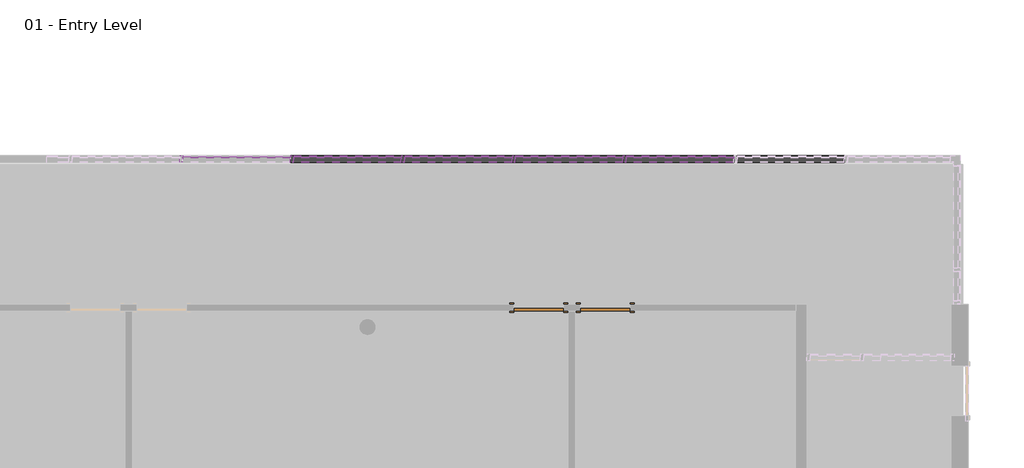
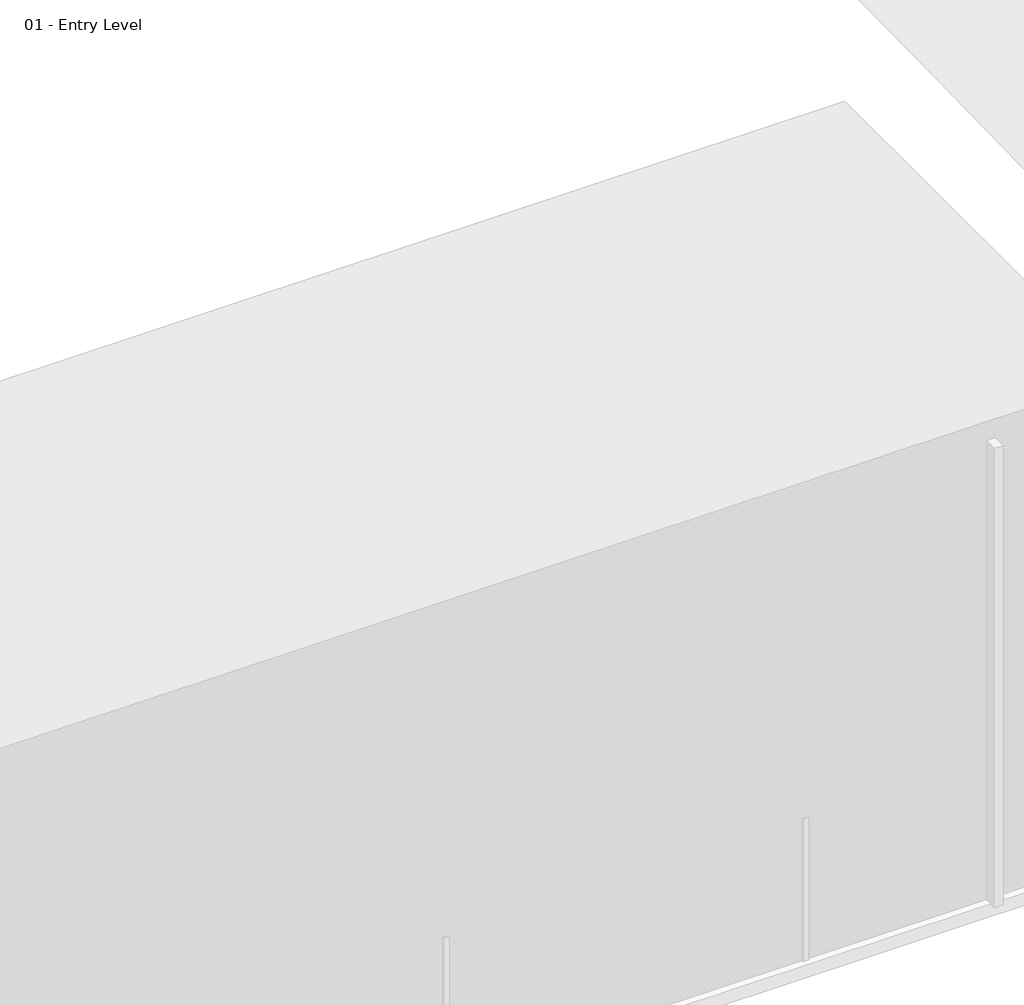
# One storey, part 21 of 34: 84 members, 45 plates, 2 doors.
"""IFC4 building model written with IfcOpenShell, lengths in millimetres."""

from ifc_helpers import new_model, si_unit, origin, place, context, project, spatial, transform, mapped, element, save
from components import door_a1797ceb, door_a3eb833a, member_2b49869a, member_391b434c, member_9e90ae50, system_panel_glazed_1b9d6098, system_panel_glazed_70da479d

model = new_model("IFC4")

# Units and contexts
model_context = context("Model", 3, world=origin())
ifc_project = project(units=[si_unit("LENGTHUNIT", "METRE", prefix="MILLI")], contexts=[model_context])

# Site, building, storey
site = spatial("IfcSite", under=ifc_project)
building = spatial("IfcBuilding", under=site)
storey = spatial("IfcBuildingStorey", under=building, Name="01 - Entry Level", Elevation=0.0)

# Doors
placement = place(None, origin())
door_shape = door_a1797ceb(model_context)
element("IfcDoor", 1, ObjectType="Single-Flush : 36\" x 84\"", at=placement, inside=storey, context=model_context, shape_type="MappedRepresentation", body=[
    mapped(door_shape, transform((59652.8207476, 8270.8, 0.0), x_axis=(-1.0, 0.0, 0.0), y_axis=(0.0, -1.0, 0.0), z_axis=(0.0, 0.0, 1.0))),
])
door_2_shape = door_a3eb833a(model_context)
element("IfcDoor", 2, ObjectType="Single-Flush : 36\" x 84\"", at=placement, inside=storey, context=model_context, shape_type="MappedRepresentation", body=[
    mapped(door_2_shape, transform((58433.6207476, 8270.8, 0.0), x_axis=(1.0, 0.0, 0.0), y_axis=(0.0, 1.0, 0.0), z_axis=(0.0, 0.0, 1.0))),
])

# Members
member_shape = member_2b49869a(model_context)
element("IfcMember", 3, ObjectType="Rectangular Mullion : 2.5\" x 5\" rectangular", at=placement, inside=storey, context=model_context, shape_type="MappedRepresentation", body=[
    mapped(member_shape, transform((60008.4207476, 11001.3, 9753.6), x_axis=(-1.0, 0.0, 0.0), y_axis=(0.0, 1.0, 0.0), z_axis=(0.0, 0.0, -1.0))),
])
element("IfcMember", 4, ObjectType="Rectangular Mullion : 2.5\" x 5\" rectangular", at=placement, inside=storey, context=model_context, shape_type="MappedRepresentation", body=[
    mapped(member_shape, transform((57976.4207476, 11001.3, 9753.6), x_axis=(-1.0, 0.0, 0.0), y_axis=(0.0, 1.0, 0.0), z_axis=(0.0, 0.0, -1.0))),
])
element("IfcMember", 5, ObjectType="Rectangular Mullion : 2.5\" x 5\" rectangular", at=placement, inside=storey, context=model_context, shape_type="MappedRepresentation", body=[
    mapped(member_shape, transform((55944.4207476, 11001.3, 9753.6), x_axis=(-1.0, 0.0, 0.0), y_axis=(0.0, 1.0, 0.0), z_axis=(0.0, 0.0, -1.0))),
])
element("IfcMember", 6, ObjectType="Rectangular Mullion : 2.5\" x 5\" rectangular", at=placement, inside=storey, context=model_context, shape_type="MappedRepresentation", body=[
    mapped(member_shape, transform((53912.4207476, 11001.3, 9753.6), x_axis=(-1.0, 0.0, 0.0), y_axis=(0.0, 1.0, 0.0), z_axis=(0.0, 0.0, -1.0))),
])
element("IfcMember", 7, ObjectType="Rectangular Mullion : 2.5\" x 5\" rectangular", at=placement, inside=storey, context=model_context, shape_type="MappedRepresentation", body=[
    mapped(member_shape, transform((51880.4207476, 11001.3, 9753.6), x_axis=(-1.0, 0.0, 0.0), y_axis=(0.0, 1.0, 0.0), z_axis=(0.0, 0.0, -1.0))),
])
member_2_shape = member_391b434c(model_context)
element("IfcMember", 8, ObjectType="Rectangular Mullion : 2.5\" x 5\" rectangular", at=placement, inside=storey, context=model_context, shape_type="MappedRepresentation", body=[
    mapped(member_2_shape, transform((62072.1707476, 11001.3, 10972.8), x_axis=(0.0, 0.0, 1.0), y_axis=(0.0, 1.0, 0.0), z_axis=(-1.0, 0.0, 0.0))),
])
element("IfcMember", 9, ObjectType="Rectangular Mullion : 2.5\" x 5\" rectangular", at=placement, inside=storey, context=model_context, shape_type="MappedRepresentation", body=[
    mapped(member_2_shape, transform((60040.1707476, 11001.3, 10972.8), x_axis=(0.0, 0.0, 1.0), y_axis=(0.0, 1.0, 0.0), z_axis=(-1.0, 0.0, 0.0))),
])
element("IfcMember", 10, ObjectType="Rectangular Mullion : 2.5\" x 5\" rectangular", at=placement, inside=storey, context=model_context, shape_type="MappedRepresentation", body=[
    mapped(member_2_shape, transform((58008.1707476, 11001.3, 10972.8), x_axis=(0.0, 0.0, 1.0), y_axis=(0.0, 1.0, 0.0), z_axis=(-1.0, 0.0, 0.0))),
])
element("IfcMember", 11, ObjectType="Rectangular Mullion : 2.5\" x 5\" rectangular", at=placement, inside=storey, context=model_context, shape_type="MappedRepresentation", body=[
    mapped(member_2_shape, transform((55976.1707476, 11001.3, 10972.8), x_axis=(0.0, 0.0, 1.0), y_axis=(0.0, 1.0, 0.0), z_axis=(-1.0, 0.0, 0.0))),
])
element("IfcMember", 12, ObjectType="Rectangular Mullion : 2.5\" x 5\" rectangular", at=placement, inside=storey, context=model_context, shape_type="MappedRepresentation", body=[
    mapped(member_2_shape, transform((53944.1707476, 11001.3, 10972.8), x_axis=(0.0, 0.0, 1.0), y_axis=(0.0, 1.0, 0.0), z_axis=(-1.0, 0.0, 0.0))),
])
element("IfcMember", 13, ObjectType="Rectangular Mullion : 2.5\" x 5\" rectangular", at=placement, inside=storey, context=model_context, shape_type="MappedRepresentation", body=[
    mapped(member_2_shape, transform((62008.6707476, 11001.3, 0.0), x_axis=(0.0, 0.0, -1.0), y_axis=(0.0, 1.0, 0.0), z_axis=(1.0, 0.0, 0.0))),
])
element("IfcMember", 14, ObjectType="Rectangular Mullion : 2.5\" x 5\" rectangular", at=placement, inside=storey, context=model_context, shape_type="MappedRepresentation", body=[
    mapped(member_2_shape, transform((59976.6707476, 11001.3, 0.0), x_axis=(0.0, 0.0, -1.0), y_axis=(0.0, 1.0, 0.0), z_axis=(1.0, 0.0, 0.0))),
])
element("IfcMember", 15, ObjectType="Rectangular Mullion : 2.5\" x 5\" rectangular", at=placement, inside=storey, context=model_context, shape_type="MappedRepresentation", body=[
    mapped(member_2_shape, transform((57944.6707476, 11001.3, 0.0), x_axis=(0.0, 0.0, -1.0), y_axis=(0.0, 1.0, 0.0), z_axis=(1.0, 0.0, 0.0))),
])
element("IfcMember", 16, ObjectType="Rectangular Mullion : 2.5\" x 5\" rectangular", at=placement, inside=storey, context=model_context, shape_type="MappedRepresentation", body=[
    mapped(member_2_shape, transform((55912.6707476, 11001.3, 0.0), x_axis=(0.0, 0.0, -1.0), y_axis=(0.0, 1.0, 0.0), z_axis=(1.0, 0.0, 0.0))),
])
element("IfcMember", 17, ObjectType="Rectangular Mullion : 2.5\" x 5\" rectangular", at=placement, inside=storey, context=model_context, shape_type="MappedRepresentation", body=[
    mapped(member_2_shape, transform((53880.6707476, 11001.3, 0.0), x_axis=(0.0, 0.0, -1.0), y_axis=(0.0, 1.0, 0.0), z_axis=(1.0, 0.0, 0.0))),
])
member_3_shape = member_9e90ae50(model_context)
element("IfcMember", 18, ObjectType="Rectangular Mullion : 2.5\" x 5\" rectangular", at=placement, inside=storey, context=model_context, shape_type="MappedRepresentation", body=[
    mapped(member_3_shape, transform((62072.1707476, 11001.3, 1219.2), x_axis=(0.0, 0.0, 1.0), y_axis=(0.0, 1.0, 0.0), z_axis=(-1.0, 0.0, 0.0))),
])
element("IfcMember", 19, ObjectType="Rectangular Mullion : 2.5\" x 5\" rectangular", at=placement, inside=storey, context=model_context, shape_type="MappedRepresentation", body=[
    mapped(member_3_shape, transform((60040.1707476, 11001.3, 1219.2), x_axis=(0.0, 0.0, 1.0), y_axis=(0.0, 1.0, 0.0), z_axis=(-1.0, 0.0, 0.0))),
])
element("IfcMember", 20, ObjectType="Rectangular Mullion : 2.5\" x 5\" rectangular", at=placement, inside=storey, context=model_context, shape_type="MappedRepresentation", body=[
    mapped(member_3_shape, transform((58008.1707476, 11001.3, 1219.2), x_axis=(0.0, 0.0, 1.0), y_axis=(0.0, 1.0, 0.0), z_axis=(-1.0, 0.0, 0.0))),
])
element("IfcMember", 21, ObjectType="Rectangular Mullion : 2.5\" x 5\" rectangular", at=placement, inside=storey, context=model_context, shape_type="MappedRepresentation", body=[
    mapped(member_3_shape, transform((55976.1707476, 11001.3, 1219.2), x_axis=(0.0, 0.0, 1.0), y_axis=(0.0, 1.0, 0.0), z_axis=(-1.0, 0.0, 0.0))),
])
element("IfcMember", 22, ObjectType="Rectangular Mullion : 2.5\" x 5\" rectangular", at=placement, inside=storey, context=model_context, shape_type="MappedRepresentation", body=[
    mapped(member_3_shape, transform((53944.1707476, 11001.3, 1219.2), x_axis=(0.0, 0.0, 1.0), y_axis=(0.0, 1.0, 0.0), z_axis=(-1.0, 0.0, 0.0))),
])
element("IfcMember", 23, ObjectType="Rectangular Mullion : 2.5\" x 5\" rectangular", at=placement, inside=storey, context=model_context, shape_type="MappedRepresentation", body=[
    mapped(member_3_shape, transform((62072.1707476, 11001.3, 2438.4), x_axis=(0.0, 0.0, 1.0), y_axis=(0.0, 1.0, 0.0), z_axis=(-1.0, 0.0, 0.0))),
])
element("IfcMember", 24, ObjectType="Rectangular Mullion : 2.5\" x 5\" rectangular", at=placement, inside=storey, context=model_context, shape_type="MappedRepresentation", body=[
    mapped(member_3_shape, transform((60040.1707476, 11001.3, 2438.4), x_axis=(0.0, 0.0, 1.0), y_axis=(0.0, 1.0, 0.0), z_axis=(-1.0, 0.0, 0.0))),
])
element("IfcMember", 25, ObjectType="Rectangular Mullion : 2.5\" x 5\" rectangular", at=placement, inside=storey, context=model_context, shape_type="MappedRepresentation", body=[
    mapped(member_3_shape, transform((58008.1707476, 11001.3, 2438.4), x_axis=(0.0, 0.0, 1.0), y_axis=(0.0, 1.0, 0.0), z_axis=(-1.0, 0.0, 0.0))),
])
element("IfcMember", 26, ObjectType="Rectangular Mullion : 2.5\" x 5\" rectangular", at=placement, inside=storey, context=model_context, shape_type="MappedRepresentation", body=[
    mapped(member_3_shape, transform((55976.1707476, 11001.3, 2438.4), x_axis=(0.0, 0.0, 1.0), y_axis=(0.0, 1.0, 0.0), z_axis=(-1.0, 0.0, 0.0))),
])
element("IfcMember", 27, ObjectType="Rectangular Mullion : 2.5\" x 5\" rectangular", at=placement, inside=storey, context=model_context, shape_type="MappedRepresentation", body=[
    mapped(member_3_shape, transform((53944.1707476, 11001.3, 2438.4), x_axis=(0.0, 0.0, 1.0), y_axis=(0.0, 1.0, 0.0), z_axis=(-1.0, 0.0, 0.0))),
])
element("IfcMember", 28, ObjectType="Rectangular Mullion : 2.5\" x 5\" rectangular", at=placement, inside=storey, context=model_context, shape_type="MappedRepresentation", body=[
    mapped(member_3_shape, transform((62072.1707476, 11001.3, 3657.6), x_axis=(0.0, 0.0, 1.0), y_axis=(0.0, 1.0, 0.0), z_axis=(-1.0, 0.0, 0.0))),
])
element("IfcMember", 29, ObjectType="Rectangular Mullion : 2.5\" x 5\" rectangular", at=placement, inside=storey, context=model_context, shape_type="MappedRepresentation", body=[
    mapped(member_3_shape, transform((60040.1707476, 11001.3, 3657.6), x_axis=(0.0, 0.0, 1.0), y_axis=(0.0, 1.0, 0.0), z_axis=(-1.0, 0.0, 0.0))),
])
element("IfcMember", 30, ObjectType="Rectangular Mullion : 2.5\" x 5\" rectangular", at=placement, inside=storey, context=model_context, shape_type="MappedRepresentation", body=[
    mapped(member_3_shape, transform((58008.1707476, 11001.3, 3657.6), x_axis=(0.0, 0.0, 1.0), y_axis=(0.0, 1.0, 0.0), z_axis=(-1.0, 0.0, 0.0))),
])
element("IfcMember", 31, ObjectType="Rectangular Mullion : 2.5\" x 5\" rectangular", at=placement, inside=storey, context=model_context, shape_type="MappedRepresentation", body=[
    mapped(member_3_shape, transform((55976.1707476, 11001.3, 3657.6), x_axis=(0.0, 0.0, 1.0), y_axis=(0.0, 1.0, 0.0), z_axis=(-1.0, 0.0, 0.0))),
])
element("IfcMember", 32, ObjectType="Rectangular Mullion : 2.5\" x 5\" rectangular", at=placement, inside=storey, context=model_context, shape_type="MappedRepresentation", body=[
    mapped(member_3_shape, transform((53944.1707476, 11001.3, 3657.6), x_axis=(0.0, 0.0, 1.0), y_axis=(0.0, 1.0, 0.0), z_axis=(-1.0, 0.0, 0.0))),
])
element("IfcMember", 33, ObjectType="Rectangular Mullion : 2.5\" x 5\" rectangular", at=placement, inside=storey, context=model_context, shape_type="MappedRepresentation", body=[
    mapped(member_3_shape, transform((62072.1707476, 11001.3, 4876.8), x_axis=(0.0, 0.0, 1.0), y_axis=(0.0, 1.0, 0.0), z_axis=(-1.0, 0.0, 0.0))),
])
element("IfcMember", 34, ObjectType="Rectangular Mullion : 2.5\" x 5\" rectangular", at=placement, inside=storey, context=model_context, shape_type="MappedRepresentation", body=[
    mapped(member_3_shape, transform((60040.1707476, 11001.3, 4876.8), x_axis=(0.0, 0.0, 1.0), y_axis=(0.0, 1.0, 0.0), z_axis=(-1.0, 0.0, 0.0))),
])
element("IfcMember", 35, ObjectType="Rectangular Mullion : 2.5\" x 5\" rectangular", at=placement, inside=storey, context=model_context, shape_type="MappedRepresentation", body=[
    mapped(member_3_shape, transform((58008.1707476, 11001.3, 4876.8), x_axis=(0.0, 0.0, 1.0), y_axis=(0.0, 1.0, 0.0), z_axis=(-1.0, 0.0, 0.0))),
])
element("IfcMember", 36, ObjectType="Rectangular Mullion : 2.5\" x 5\" rectangular", at=placement, inside=storey, context=model_context, shape_type="MappedRepresentation", body=[
    mapped(member_3_shape, transform((55976.1707476, 11001.3, 4876.8), x_axis=(0.0, 0.0, 1.0), y_axis=(0.0, 1.0, 0.0), z_axis=(-1.0, 0.0, 0.0))),
])
element("IfcMember", 37, ObjectType="Rectangular Mullion : 2.5\" x 5\" rectangular", at=placement, inside=storey, context=model_context, shape_type="MappedRepresentation", body=[
    mapped(member_3_shape, transform((53944.1707476, 11001.3, 4876.8), x_axis=(0.0, 0.0, 1.0), y_axis=(0.0, 1.0, 0.0), z_axis=(-1.0, 0.0, 0.0))),
])
element("IfcMember", 38, ObjectType="Rectangular Mullion : 2.5\" x 5\" rectangular", at=placement, inside=storey, context=model_context, shape_type="MappedRepresentation", body=[
    mapped(member_3_shape, transform((60040.1707476, 11001.3, 6096.0), x_axis=(0.0, 0.0, 1.0), y_axis=(0.0, 1.0, 0.0), z_axis=(-1.0, 0.0, 0.0))),
])
element("IfcMember", 39, ObjectType="Rectangular Mullion : 2.5\" x 5\" rectangular", at=placement, inside=storey, context=model_context, shape_type="MappedRepresentation", body=[
    mapped(member_3_shape, transform((58008.1707476, 11001.3, 6096.0), x_axis=(0.0, 0.0, 1.0), y_axis=(0.0, 1.0, 0.0), z_axis=(-1.0, 0.0, 0.0))),
])
element("IfcMember", 40, ObjectType="Rectangular Mullion : 2.5\" x 5\" rectangular", at=placement, inside=storey, context=model_context, shape_type="MappedRepresentation", body=[
    mapped(member_3_shape, transform((55976.1707476, 11001.3, 6096.0), x_axis=(0.0, 0.0, 1.0), y_axis=(0.0, 1.0, 0.0), z_axis=(-1.0, 0.0, 0.0))),
])
element("IfcMember", 41, ObjectType="Rectangular Mullion : 2.5\" x 5\" rectangular", at=placement, inside=storey, context=model_context, shape_type="MappedRepresentation", body=[
    mapped(member_3_shape, transform((53944.1707476, 11001.3, 6096.0), x_axis=(0.0, 0.0, 1.0), y_axis=(0.0, 1.0, 0.0), z_axis=(-1.0, 0.0, 0.0))),
])
element("IfcMember", 42, ObjectType="Rectangular Mullion : 2.5\" x 5\" rectangular", at=placement, inside=storey, context=model_context, shape_type="MappedRepresentation", body=[
    mapped(member_3_shape, transform((60040.1707476, 11001.3, 7315.2), x_axis=(0.0, 0.0, 1.0), y_axis=(0.0, 1.0, 0.0), z_axis=(-1.0, 0.0, 0.0))),
])
element("IfcMember", 43, ObjectType="Rectangular Mullion : 2.5\" x 5\" rectangular", at=placement, inside=storey, context=model_context, shape_type="MappedRepresentation", body=[
    mapped(member_3_shape, transform((58008.1707476, 11001.3, 7315.2), x_axis=(0.0, 0.0, 1.0), y_axis=(0.0, 1.0, 0.0), z_axis=(-1.0, 0.0, 0.0))),
])
element("IfcMember", 44, ObjectType="Rectangular Mullion : 2.5\" x 5\" rectangular", at=placement, inside=storey, context=model_context, shape_type="MappedRepresentation", body=[
    mapped(member_3_shape, transform((55976.1707476, 11001.3, 7315.2), x_axis=(0.0, 0.0, 1.0), y_axis=(0.0, 1.0, 0.0), z_axis=(-1.0, 0.0, 0.0))),
])
element("IfcMember", 45, ObjectType="Rectangular Mullion : 2.5\" x 5\" rectangular", at=placement, inside=storey, context=model_context, shape_type="MappedRepresentation", body=[
    mapped(member_3_shape, transform((53944.1707476, 11001.3, 7315.2), x_axis=(0.0, 0.0, 1.0), y_axis=(0.0, 1.0, 0.0), z_axis=(-1.0, 0.0, 0.0))),
])
element("IfcMember", 46, ObjectType="Rectangular Mullion : 2.5\" x 5\" rectangular", at=placement, inside=storey, context=model_context, shape_type="MappedRepresentation", body=[
    mapped(member_3_shape, transform((60040.1707476, 11001.3, 8534.4), x_axis=(0.0, 0.0, 1.0), y_axis=(0.0, 1.0, 0.0), z_axis=(-1.0, 0.0, 0.0))),
])
element("IfcMember", 47, ObjectType="Rectangular Mullion : 2.5\" x 5\" rectangular", at=placement, inside=storey, context=model_context, shape_type="MappedRepresentation", body=[
    mapped(member_3_shape, transform((58008.1707476, 11001.3, 8534.4), x_axis=(0.0, 0.0, 1.0), y_axis=(0.0, 1.0, 0.0), z_axis=(-1.0, 0.0, 0.0))),
])
element("IfcMember", 48, ObjectType="Rectangular Mullion : 2.5\" x 5\" rectangular", at=placement, inside=storey, context=model_context, shape_type="MappedRepresentation", body=[
    mapped(member_3_shape, transform((55976.1707476, 11001.3, 8534.4), x_axis=(0.0, 0.0, 1.0), y_axis=(0.0, 1.0, 0.0), z_axis=(-1.0, 0.0, 0.0))),
])
element("IfcMember", 49, ObjectType="Rectangular Mullion : 2.5\" x 5\" rectangular", at=placement, inside=storey, context=model_context, shape_type="MappedRepresentation", body=[
    mapped(member_3_shape, transform((53944.1707476, 11001.3, 8534.4), x_axis=(0.0, 0.0, 1.0), y_axis=(0.0, 1.0, 0.0), z_axis=(-1.0, 0.0, 0.0))),
])
element("IfcMember", 50, ObjectType="Rectangular Mullion : 2.5\" x 5\" rectangular", at=placement, inside=storey, context=model_context, shape_type="MappedRepresentation", body=[
    mapped(member_3_shape, transform((60040.1707476, 11001.3, 9753.6), x_axis=(0.0, 0.0, 1.0), y_axis=(0.0, 1.0, 0.0), z_axis=(-1.0, 0.0, 0.0))),
])
element("IfcMember", 51, ObjectType="Rectangular Mullion : 2.5\" x 5\" rectangular", at=placement, inside=storey, context=model_context, shape_type="MappedRepresentation", body=[
    mapped(member_3_shape, transform((58008.1707476, 11001.3, 9753.6), x_axis=(0.0, 0.0, 1.0), y_axis=(0.0, 1.0, 0.0), z_axis=(-1.0, 0.0, 0.0))),
])
element("IfcMember", 52, ObjectType="Rectangular Mullion : 2.5\" x 5\" rectangular", at=placement, inside=storey, context=model_context, shape_type="MappedRepresentation", body=[
    mapped(member_3_shape, transform((55976.1707476, 11001.3, 9753.6), x_axis=(0.0, 0.0, 1.0), y_axis=(0.0, 1.0, 0.0), z_axis=(-1.0, 0.0, 0.0))),
])
element("IfcMember", 53, ObjectType="Rectangular Mullion : 2.5\" x 5\" rectangular", at=placement, inside=storey, context=model_context, shape_type="MappedRepresentation", body=[
    mapped(member_3_shape, transform((53944.1707476, 11001.3, 9753.6), x_axis=(0.0, 0.0, 1.0), y_axis=(0.0, 1.0, 0.0), z_axis=(-1.0, 0.0, 0.0))),
])
element("IfcMember", 54, ObjectType="Rectangular Mullion : 2.5\" x 5\" rectangular", at=placement, inside=storey, context=model_context, shape_type="MappedRepresentation", body=[
    mapped(member_shape, transform((60008.4207476, 11001.3, 0.0), x_axis=(-1.0, 0.0, 0.0), y_axis=(0.0, 1.0, 0.0), z_axis=(0.0, 0.0, -1.0))),
])
element("IfcMember", 55, ObjectType="Rectangular Mullion : 2.5\" x 5\" rectangular", at=placement, inside=storey, context=model_context, shape_type="MappedRepresentation", body=[
    mapped(member_shape, transform((57976.4207476, 11001.3, 0.0), x_axis=(-1.0, 0.0, 0.0), y_axis=(0.0, 1.0, 0.0), z_axis=(0.0, 0.0, -1.0))),
])
element("IfcMember", 56, ObjectType="Rectangular Mullion : 2.5\" x 5\" rectangular", at=placement, inside=storey, context=model_context, shape_type="MappedRepresentation", body=[
    mapped(member_shape, transform((55944.4207476, 11001.3, 0.0), x_axis=(-1.0, 0.0, 0.0), y_axis=(0.0, 1.0, 0.0), z_axis=(0.0, 0.0, -1.0))),
])
element("IfcMember", 57, ObjectType="Rectangular Mullion : 2.5\" x 5\" rectangular", at=placement, inside=storey, context=model_context, shape_type="MappedRepresentation", body=[
    mapped(member_shape, transform((53912.4207476, 11001.3, 0.0), x_axis=(-1.0, 0.0, 0.0), y_axis=(0.0, 1.0, 0.0), z_axis=(0.0, 0.0, -1.0))),
])
element("IfcMember", 58, ObjectType="Rectangular Mullion : 2.5\" x 5\" rectangular", at=placement, inside=storey, context=model_context, shape_type="MappedRepresentation", body=[
    mapped(member_shape, transform((60008.4207476, 11001.3, 1219.2), x_axis=(-1.0, 0.0, 0.0), y_axis=(0.0, 1.0, 0.0), z_axis=(0.0, 0.0, -1.0))),
])
element("IfcMember", 59, ObjectType="Rectangular Mullion : 2.5\" x 5\" rectangular", at=placement, inside=storey, context=model_context, shape_type="MappedRepresentation", body=[
    mapped(member_shape, transform((57976.4207476, 11001.3, 1219.2), x_axis=(-1.0, 0.0, 0.0), y_axis=(0.0, 1.0, 0.0), z_axis=(0.0, 0.0, -1.0))),
])
element("IfcMember", 60, ObjectType="Rectangular Mullion : 2.5\" x 5\" rectangular", at=placement, inside=storey, context=model_context, shape_type="MappedRepresentation", body=[
    mapped(member_shape, transform((55944.4207476, 11001.3, 1219.2), x_axis=(-1.0, 0.0, 0.0), y_axis=(0.0, 1.0, 0.0), z_axis=(0.0, 0.0, -1.0))),
])
element("IfcMember", 61, ObjectType="Rectangular Mullion : 2.5\" x 5\" rectangular", at=placement, inside=storey, context=model_context, shape_type="MappedRepresentation", body=[
    mapped(member_shape, transform((53912.4207476, 11001.3, 1219.2), x_axis=(-1.0, 0.0, 0.0), y_axis=(0.0, 1.0, 0.0), z_axis=(0.0, 0.0, -1.0))),
])
element("IfcMember", 62, ObjectType="Rectangular Mullion : 2.5\" x 5\" rectangular", at=placement, inside=storey, context=model_context, shape_type="MappedRepresentation", body=[
    mapped(member_shape, transform((60008.4207476, 11001.3, 2438.4), x_axis=(-1.0, 0.0, 0.0), y_axis=(0.0, 1.0, 0.0), z_axis=(0.0, 0.0, -1.0))),
])
element("IfcMember", 63, ObjectType="Rectangular Mullion : 2.5\" x 5\" rectangular", at=placement, inside=storey, context=model_context, shape_type="MappedRepresentation", body=[
    mapped(member_shape, transform((57976.4207476, 11001.3, 2438.4), x_axis=(-1.0, 0.0, 0.0), y_axis=(0.0, 1.0, 0.0), z_axis=(0.0, 0.0, -1.0))),
])
element("IfcMember", 64, ObjectType="Rectangular Mullion : 2.5\" x 5\" rectangular", at=placement, inside=storey, context=model_context, shape_type="MappedRepresentation", body=[
    mapped(member_shape, transform((55944.4207476, 11001.3, 2438.4), x_axis=(-1.0, 0.0, 0.0), y_axis=(0.0, 1.0, 0.0), z_axis=(0.0, 0.0, -1.0))),
])
element("IfcMember", 65, ObjectType="Rectangular Mullion : 2.5\" x 5\" rectangular", at=placement, inside=storey, context=model_context, shape_type="MappedRepresentation", body=[
    mapped(member_shape, transform((53912.4207476, 11001.3, 2438.4), x_axis=(-1.0, 0.0, 0.0), y_axis=(0.0, 1.0, 0.0), z_axis=(0.0, 0.0, -1.0))),
])
element("IfcMember", 66, ObjectType="Rectangular Mullion : 2.5\" x 5\" rectangular", at=placement, inside=storey, context=model_context, shape_type="MappedRepresentation", body=[
    mapped(member_shape, transform((60008.4207476, 11001.3, 3657.6), x_axis=(-1.0, 0.0, 0.0), y_axis=(0.0, 1.0, 0.0), z_axis=(0.0, 0.0, -1.0))),
])
element("IfcMember", 67, ObjectType="Rectangular Mullion : 2.5\" x 5\" rectangular", at=placement, inside=storey, context=model_context, shape_type="MappedRepresentation", body=[
    mapped(member_shape, transform((57976.4207476, 11001.3, 3657.6), x_axis=(-1.0, 0.0, 0.0), y_axis=(0.0, 1.0, 0.0), z_axis=(0.0, 0.0, -1.0))),
])
element("IfcMember", 68, ObjectType="Rectangular Mullion : 2.5\" x 5\" rectangular", at=placement, inside=storey, context=model_context, shape_type="MappedRepresentation", body=[
    mapped(member_shape, transform((55944.4207476, 11001.3, 3657.6), x_axis=(-1.0, 0.0, 0.0), y_axis=(0.0, 1.0, 0.0), z_axis=(0.0, 0.0, -1.0))),
])
element("IfcMember", 69, ObjectType="Rectangular Mullion : 2.5\" x 5\" rectangular", at=placement, inside=storey, context=model_context, shape_type="MappedRepresentation", body=[
    mapped(member_shape, transform((53912.4207476, 11001.3, 3657.6), x_axis=(-1.0, 0.0, 0.0), y_axis=(0.0, 1.0, 0.0), z_axis=(0.0, 0.0, -1.0))),
])
element("IfcMember", 70, ObjectType="Rectangular Mullion : 2.5\" x 5\" rectangular", at=placement, inside=storey, context=model_context, shape_type="MappedRepresentation", body=[
    mapped(member_shape, transform((60008.4207476, 11001.3, 4876.8), x_axis=(-1.0, 0.0, 0.0), y_axis=(0.0, 1.0, 0.0), z_axis=(0.0, 0.0, -1.0))),
])
element("IfcMember", 71, ObjectType="Rectangular Mullion : 2.5\" x 5\" rectangular", at=placement, inside=storey, context=model_context, shape_type="MappedRepresentation", body=[
    mapped(member_shape, transform((57976.4207476, 11001.3, 4876.8), x_axis=(-1.0, 0.0, 0.0), y_axis=(0.0, 1.0, 0.0), z_axis=(0.0, 0.0, -1.0))),
])
element("IfcMember", 72, ObjectType="Rectangular Mullion : 2.5\" x 5\" rectangular", at=placement, inside=storey, context=model_context, shape_type="MappedRepresentation", body=[
    mapped(member_shape, transform((55944.4207476, 11001.3, 4876.8), x_axis=(-1.0, 0.0, 0.0), y_axis=(0.0, 1.0, 0.0), z_axis=(0.0, 0.0, -1.0))),
])
element("IfcMember", 73, ObjectType="Rectangular Mullion : 2.5\" x 5\" rectangular", at=placement, inside=storey, context=model_context, shape_type="MappedRepresentation", body=[
    mapped(member_shape, transform((53912.4207476, 11001.3, 4876.8), x_axis=(-1.0, 0.0, 0.0), y_axis=(0.0, 1.0, 0.0), z_axis=(0.0, 0.0, -1.0))),
])
element("IfcMember", 74, ObjectType="Rectangular Mullion : 2.5\" x 5\" rectangular", at=placement, inside=storey, context=model_context, shape_type="MappedRepresentation", body=[
    mapped(member_shape, transform((60008.4207476, 11001.3, 6096.0), x_axis=(-1.0, 0.0, 0.0), y_axis=(0.0, 1.0, 0.0), z_axis=(0.0, 0.0, -1.0))),
])
element("IfcMember", 75, ObjectType="Rectangular Mullion : 2.5\" x 5\" rectangular", at=placement, inside=storey, context=model_context, shape_type="MappedRepresentation", body=[
    mapped(member_shape, transform((57976.4207476, 11001.3, 6096.0), x_axis=(-1.0, 0.0, 0.0), y_axis=(0.0, 1.0, 0.0), z_axis=(0.0, 0.0, -1.0))),
])
element("IfcMember", 76, ObjectType="Rectangular Mullion : 2.5\" x 5\" rectangular", at=placement, inside=storey, context=model_context, shape_type="MappedRepresentation", body=[
    mapped(member_shape, transform((55944.4207476, 11001.3, 6096.0), x_axis=(-1.0, 0.0, 0.0), y_axis=(0.0, 1.0, 0.0), z_axis=(0.0, 0.0, -1.0))),
])
element("IfcMember", 77, ObjectType="Rectangular Mullion : 2.5\" x 5\" rectangular", at=placement, inside=storey, context=model_context, shape_type="MappedRepresentation", body=[
    mapped(member_shape, transform((53912.4207476, 11001.3, 6096.0), x_axis=(-1.0, 0.0, 0.0), y_axis=(0.0, 1.0, 0.0), z_axis=(0.0, 0.0, -1.0))),
])
element("IfcMember", 78, ObjectType="Rectangular Mullion : 2.5\" x 5\" rectangular", at=placement, inside=storey, context=model_context, shape_type="MappedRepresentation", body=[
    mapped(member_shape, transform((60008.4207476, 11001.3, 7315.2), x_axis=(-1.0, 0.0, 0.0), y_axis=(0.0, 1.0, 0.0), z_axis=(0.0, 0.0, -1.0))),
])
element("IfcMember", 79, ObjectType="Rectangular Mullion : 2.5\" x 5\" rectangular", at=placement, inside=storey, context=model_context, shape_type="MappedRepresentation", body=[
    mapped(member_shape, transform((57976.4207476, 11001.3, 7315.2), x_axis=(-1.0, 0.0, 0.0), y_axis=(0.0, 1.0, 0.0), z_axis=(0.0, 0.0, -1.0))),
])
element("IfcMember", 80, ObjectType="Rectangular Mullion : 2.5\" x 5\" rectangular", at=placement, inside=storey, context=model_context, shape_type="MappedRepresentation", body=[
    mapped(member_shape, transform((55944.4207476, 11001.3, 7315.2), x_axis=(-1.0, 0.0, 0.0), y_axis=(0.0, 1.0, 0.0), z_axis=(0.0, 0.0, -1.0))),
])
element("IfcMember", 81, ObjectType="Rectangular Mullion : 2.5\" x 5\" rectangular", at=placement, inside=storey, context=model_context, shape_type="MappedRepresentation", body=[
    mapped(member_shape, transform((53912.4207476, 11001.3, 7315.2), x_axis=(-1.0, 0.0, 0.0), y_axis=(0.0, 1.0, 0.0), z_axis=(0.0, 0.0, -1.0))),
])
element("IfcMember", 82, ObjectType="Rectangular Mullion : 2.5\" x 5\" rectangular", at=placement, inside=storey, context=model_context, shape_type="MappedRepresentation", body=[
    mapped(member_shape, transform((60008.4207476, 11001.3, 8534.4), x_axis=(-1.0, 0.0, 0.0), y_axis=(0.0, 1.0, 0.0), z_axis=(0.0, 0.0, -1.0))),
])
element("IfcMember", 83, ObjectType="Rectangular Mullion : 2.5\" x 5\" rectangular", at=placement, inside=storey, context=model_context, shape_type="MappedRepresentation", body=[
    mapped(member_shape, transform((57976.4207476, 11001.3, 8534.4), x_axis=(-1.0, 0.0, 0.0), y_axis=(0.0, 1.0, 0.0), z_axis=(0.0, 0.0, -1.0))),
])
element("IfcMember", 84, ObjectType="Rectangular Mullion : 2.5\" x 5\" rectangular", at=placement, inside=storey, context=model_context, shape_type="MappedRepresentation", body=[
    mapped(member_shape, transform((55944.4207476, 11001.3, 8534.4), x_axis=(-1.0, 0.0, 0.0), y_axis=(0.0, 1.0, 0.0), z_axis=(0.0, 0.0, -1.0))),
])
element("IfcMember", 85, ObjectType="Rectangular Mullion : 2.5\" x 5\" rectangular", at=placement, inside=storey, context=model_context, shape_type="MappedRepresentation", body=[
    mapped(member_shape, transform((53912.4207476, 11001.3, 8534.4), x_axis=(-1.0, 0.0, 0.0), y_axis=(0.0, 1.0, 0.0), z_axis=(0.0, 0.0, -1.0))),
])
element("IfcMember", 86, ObjectType="Rectangular Mullion : 2.5\" x 5\" rectangular", at=placement, inside=storey, context=model_context, shape_type="MappedRepresentation", body=[
    mapped(member_shape, transform((51880.4207476, 11001.3, 8534.4), x_axis=(-1.0, 0.0, 0.0), y_axis=(0.0, 1.0, 0.0), z_axis=(0.0, 0.0, -1.0))),
])

# Plates
system_panel_glazed_shape = system_panel_glazed_1b9d6098(model_context)
element("IfcPlate", 87, ObjectType="System Panel : Glazed", at=placement, inside=storey, context=model_context, shape_type="MappedRepresentation", body=[
    mapped(system_panel_glazed_shape, transform((61024.4207476, 11001.3, 63.5), x_axis=(-1.0, 0.0, 0.0), y_axis=(0.0, -1.0, 0.0), z_axis=(0.0, 0.0, 1.0))),
])
element("IfcPlate", 88, ObjectType="System Panel : Glazed", at=placement, inside=storey, context=model_context, shape_type="MappedRepresentation", body=[
    mapped(system_panel_glazed_shape, transform((58992.4207476, 11001.3, 63.5), x_axis=(-1.0, 0.0, 0.0), y_axis=(0.0, -1.0, 0.0), z_axis=(0.0, 0.0, 1.0))),
])
element("IfcPlate", 89, ObjectType="System Panel : Glazed", at=placement, inside=storey, context=model_context, shape_type="MappedRepresentation", body=[
    mapped(system_panel_glazed_shape, transform((56960.4207476, 11001.3, 63.5), x_axis=(-1.0, 0.0, 0.0), y_axis=(0.0, -1.0, 0.0), z_axis=(0.0, 0.0, 1.0))),
])
element("IfcPlate", 90, ObjectType="System Panel : Glazed", at=placement, inside=storey, context=model_context, shape_type="MappedRepresentation", body=[
    mapped(system_panel_glazed_shape, transform((54928.4207476, 11001.3, 63.5), x_axis=(-1.0, 0.0, 0.0), y_axis=(0.0, -1.0, 0.0), z_axis=(0.0, 0.0, 1.0))),
])
element("IfcPlate", 91, ObjectType="System Panel : Glazed", at=placement, inside=storey, context=model_context, shape_type="MappedRepresentation", body=[
    mapped(system_panel_glazed_shape, transform((52896.4207476, 11001.3, 63.5), x_axis=(-1.0, 0.0, 0.0), y_axis=(0.0, -1.0, 0.0), z_axis=(0.0, 0.0, 1.0))),
])
element("IfcPlate", 92, ObjectType="System Panel : Glazed", at=placement, inside=storey, context=model_context, shape_type="MappedRepresentation", body=[
    mapped(system_panel_glazed_shape, transform((61024.4207476, 11001.3, 9785.35), x_axis=(-1.0, 0.0, 0.0), y_axis=(0.0, -1.0, 0.0), z_axis=(0.0, 0.0, 1.0))),
])
element("IfcPlate", 93, ObjectType="System Panel : Glazed", at=placement, inside=storey, context=model_context, shape_type="MappedRepresentation", body=[
    mapped(system_panel_glazed_shape, transform((58992.4207476, 11001.3, 9785.35), x_axis=(-1.0, 0.0, 0.0), y_axis=(0.0, -1.0, 0.0), z_axis=(0.0, 0.0, 1.0))),
])
element("IfcPlate", 94, ObjectType="System Panel : Glazed", at=placement, inside=storey, context=model_context, shape_type="MappedRepresentation", body=[
    mapped(system_panel_glazed_shape, transform((56960.4207476, 11001.3, 9785.35), x_axis=(-1.0, 0.0, 0.0), y_axis=(0.0, -1.0, 0.0), z_axis=(0.0, 0.0, 1.0))),
])
element("IfcPlate", 95, ObjectType="System Panel : Glazed", at=placement, inside=storey, context=model_context, shape_type="MappedRepresentation", body=[
    mapped(system_panel_glazed_shape, transform((54928.4207476, 11001.3, 9785.35), x_axis=(-1.0, 0.0, 0.0), y_axis=(0.0, -1.0, 0.0), z_axis=(0.0, 0.0, 1.0))),
])
element("IfcPlate", 96, ObjectType="System Panel : Glazed", at=placement, inside=storey, context=model_context, shape_type="MappedRepresentation", body=[
    mapped(system_panel_glazed_shape, transform((52896.4207476, 11001.3, 9785.35), x_axis=(-1.0, 0.0, 0.0), y_axis=(0.0, -1.0, 0.0), z_axis=(0.0, 0.0, 1.0))),
])
system_panel_glazed_2_shape = system_panel_glazed_70da479d(model_context)
element("IfcPlate", 97, ObjectType="System Panel : Glazed", at=placement, inside=storey, context=model_context, shape_type="MappedRepresentation", body=[
    mapped(system_panel_glazed_2_shape, transform((61024.4207476, 11001.3, 1250.95), x_axis=(-1.0, 0.0, 0.0), y_axis=(0.0, -1.0, 0.0), z_axis=(0.0, 0.0, 1.0))),
])
element("IfcPlate", 98, ObjectType="System Panel : Glazed", at=placement, inside=storey, context=model_context, shape_type="MappedRepresentation", body=[
    mapped(system_panel_glazed_2_shape, transform((58992.4207476, 11001.3, 1250.95), x_axis=(-1.0, 0.0, 0.0), y_axis=(0.0, -1.0, 0.0), z_axis=(0.0, 0.0, 1.0))),
])
element("IfcPlate", 99, ObjectType="System Panel : Glazed", at=placement, inside=storey, context=model_context, shape_type="MappedRepresentation", body=[
    mapped(system_panel_glazed_2_shape, transform((56960.4207476, 11001.3, 1250.95), x_axis=(-1.0, 0.0, 0.0), y_axis=(0.0, -1.0, 0.0), z_axis=(0.0, 0.0, 1.0))),
])
element("IfcPlate", 100, ObjectType="System Panel : Glazed", at=placement, inside=storey, context=model_context, shape_type="MappedRepresentation", body=[
    mapped(system_panel_glazed_2_shape, transform((54928.4207476, 11001.3, 1250.95), x_axis=(-1.0, 0.0, 0.0), y_axis=(0.0, -1.0, 0.0), z_axis=(0.0, 0.0, 1.0))),
])
element("IfcPlate", 101, ObjectType="System Panel : Glazed", at=placement, inside=storey, context=model_context, shape_type="MappedRepresentation", body=[
    mapped(system_panel_glazed_2_shape, transform((52896.4207476, 11001.3, 1250.95), x_axis=(-1.0, 0.0, 0.0), y_axis=(0.0, -1.0, 0.0), z_axis=(0.0, 0.0, 1.0))),
])
element("IfcPlate", 102, ObjectType="System Panel : Glazed", at=placement, inside=storey, context=model_context, shape_type="MappedRepresentation", body=[
    mapped(system_panel_glazed_2_shape, transform((61024.4207476, 11001.3, 2470.15), x_axis=(-1.0, 0.0, 0.0), y_axis=(0.0, -1.0, 0.0), z_axis=(0.0, 0.0, 1.0))),
])
element("IfcPlate", 103, ObjectType="System Panel : Glazed", at=placement, inside=storey, context=model_context, shape_type="MappedRepresentation", body=[
    mapped(system_panel_glazed_2_shape, transform((58992.4207476, 11001.3, 2470.15), x_axis=(-1.0, 0.0, 0.0), y_axis=(0.0, -1.0, 0.0), z_axis=(0.0, 0.0, 1.0))),
])
element("IfcPlate", 104, ObjectType="System Panel : Glazed", at=placement, inside=storey, context=model_context, shape_type="MappedRepresentation", body=[
    mapped(system_panel_glazed_2_shape, transform((56960.4207476, 11001.3, 2470.15), x_axis=(-1.0, 0.0, 0.0), y_axis=(0.0, -1.0, 0.0), z_axis=(0.0, 0.0, 1.0))),
])
element("IfcPlate", 105, ObjectType="System Panel : Glazed", at=placement, inside=storey, context=model_context, shape_type="MappedRepresentation", body=[
    mapped(system_panel_glazed_2_shape, transform((54928.4207476, 11001.3, 2470.15), x_axis=(-1.0, 0.0, 0.0), y_axis=(0.0, -1.0, 0.0), z_axis=(0.0, 0.0, 1.0))),
])
element("IfcPlate", 106, ObjectType="System Panel : Glazed", at=placement, inside=storey, context=model_context, shape_type="MappedRepresentation", body=[
    mapped(system_panel_glazed_2_shape, transform((52896.4207476, 11001.3, 2470.15), x_axis=(-1.0, 0.0, 0.0), y_axis=(0.0, -1.0, 0.0), z_axis=(0.0, 0.0, 1.0))),
])
element("IfcPlate", 107, ObjectType="System Panel : Glazed", at=placement, inside=storey, context=model_context, shape_type="MappedRepresentation", body=[
    mapped(system_panel_glazed_2_shape, transform((61024.4207476, 11001.3, 3689.35), x_axis=(-1.0, 0.0, 0.0), y_axis=(0.0, -1.0, 0.0), z_axis=(0.0, 0.0, 1.0))),
])
element("IfcPlate", 108, ObjectType="System Panel : Glazed", at=placement, inside=storey, context=model_context, shape_type="MappedRepresentation", body=[
    mapped(system_panel_glazed_2_shape, transform((58992.4207476, 11001.3, 3689.35), x_axis=(-1.0, 0.0, 0.0), y_axis=(0.0, -1.0, 0.0), z_axis=(0.0, 0.0, 1.0))),
])
element("IfcPlate", 109, ObjectType="System Panel : Glazed", at=placement, inside=storey, context=model_context, shape_type="MappedRepresentation", body=[
    mapped(system_panel_glazed_2_shape, transform((56960.4207476, 11001.3, 3689.35), x_axis=(-1.0, 0.0, 0.0), y_axis=(0.0, -1.0, 0.0), z_axis=(0.0, 0.0, 1.0))),
])
element("IfcPlate", 110, ObjectType="System Panel : Glazed", at=placement, inside=storey, context=model_context, shape_type="MappedRepresentation", body=[
    mapped(system_panel_glazed_2_shape, transform((54928.4207476, 11001.3, 3689.35), x_axis=(-1.0, 0.0, 0.0), y_axis=(0.0, -1.0, 0.0), z_axis=(0.0, 0.0, 1.0))),
])
element("IfcPlate", 111, ObjectType="System Panel : Glazed", at=placement, inside=storey, context=model_context, shape_type="MappedRepresentation", body=[
    mapped(system_panel_glazed_2_shape, transform((52896.4207476, 11001.3, 3689.35), x_axis=(-1.0, 0.0, 0.0), y_axis=(0.0, -1.0, 0.0), z_axis=(0.0, 0.0, 1.0))),
])
element("IfcPlate", 112, ObjectType="System Panel : Glazed", at=placement, inside=storey, context=model_context, shape_type="MappedRepresentation", body=[
    mapped(system_panel_glazed_2_shape, transform((61024.4207476, 11001.3, 4908.55), x_axis=(-1.0, 0.0, 0.0), y_axis=(0.0, -1.0, 0.0), z_axis=(0.0, 0.0, 1.0))),
])
element("IfcPlate", 113, ObjectType="System Panel : Glazed", at=placement, inside=storey, context=model_context, shape_type="MappedRepresentation", body=[
    mapped(system_panel_glazed_2_shape, transform((58992.4207476, 11001.3, 4908.55), x_axis=(-1.0, 0.0, 0.0), y_axis=(0.0, -1.0, 0.0), z_axis=(0.0, 0.0, 1.0))),
])
element("IfcPlate", 114, ObjectType="System Panel : Glazed", at=placement, inside=storey, context=model_context, shape_type="MappedRepresentation", body=[
    mapped(system_panel_glazed_2_shape, transform((56960.4207476, 11001.3, 4908.55), x_axis=(-1.0, 0.0, 0.0), y_axis=(0.0, -1.0, 0.0), z_axis=(0.0, 0.0, 1.0))),
])
element("IfcPlate", 115, ObjectType="System Panel : Glazed", at=placement, inside=storey, context=model_context, shape_type="MappedRepresentation", body=[
    mapped(system_panel_glazed_2_shape, transform((54928.4207476, 11001.3, 4908.55), x_axis=(-1.0, 0.0, 0.0), y_axis=(0.0, -1.0, 0.0), z_axis=(0.0, 0.0, 1.0))),
])
element("IfcPlate", 116, ObjectType="System Panel : Glazed", at=placement, inside=storey, context=model_context, shape_type="MappedRepresentation", body=[
    mapped(system_panel_glazed_2_shape, transform((52896.4207476, 11001.3, 4908.55), x_axis=(-1.0, 0.0, 0.0), y_axis=(0.0, -1.0, 0.0), z_axis=(0.0, 0.0, 1.0))),
])
element("IfcPlate", 117, ObjectType="System Panel : Glazed", at=placement, inside=storey, context=model_context, shape_type="MappedRepresentation", body=[
    mapped(system_panel_glazed_2_shape, transform((61024.4207476, 11001.3, 6127.75), x_axis=(-1.0, 0.0, 0.0), y_axis=(0.0, -1.0, 0.0), z_axis=(0.0, 0.0, 1.0))),
])
element("IfcPlate", 118, ObjectType="System Panel : Glazed", at=placement, inside=storey, context=model_context, shape_type="MappedRepresentation", body=[
    mapped(system_panel_glazed_2_shape, transform((58992.4207476, 11001.3, 6127.75), x_axis=(-1.0, 0.0, 0.0), y_axis=(0.0, -1.0, 0.0), z_axis=(0.0, 0.0, 1.0))),
])
element("IfcPlate", 119, ObjectType="System Panel : Glazed", at=placement, inside=storey, context=model_context, shape_type="MappedRepresentation", body=[
    mapped(system_panel_glazed_2_shape, transform((56960.4207476, 11001.3, 6127.75), x_axis=(-1.0, 0.0, 0.0), y_axis=(0.0, -1.0, 0.0), z_axis=(0.0, 0.0, 1.0))),
])
element("IfcPlate", 120, ObjectType="System Panel : Glazed", at=placement, inside=storey, context=model_context, shape_type="MappedRepresentation", body=[
    mapped(system_panel_glazed_2_shape, transform((54928.4207476, 11001.3, 6127.75), x_axis=(-1.0, 0.0, 0.0), y_axis=(0.0, -1.0, 0.0), z_axis=(0.0, 0.0, 1.0))),
])
element("IfcPlate", 121, ObjectType="System Panel : Glazed", at=placement, inside=storey, context=model_context, shape_type="MappedRepresentation", body=[
    mapped(system_panel_glazed_2_shape, transform((52896.4207476, 11001.3, 6127.75), x_axis=(-1.0, 0.0, 0.0), y_axis=(0.0, -1.0, 0.0), z_axis=(0.0, 0.0, 1.0))),
])
element("IfcPlate", 122, ObjectType="System Panel : Glazed", at=placement, inside=storey, context=model_context, shape_type="MappedRepresentation", body=[
    mapped(system_panel_glazed_2_shape, transform((61024.4207476, 11001.3, 7346.95), x_axis=(-1.0, 0.0, 0.0), y_axis=(0.0, -1.0, 0.0), z_axis=(0.0, 0.0, 1.0))),
])
element("IfcPlate", 123, ObjectType="System Panel : Glazed", at=placement, inside=storey, context=model_context, shape_type="MappedRepresentation", body=[
    mapped(system_panel_glazed_2_shape, transform((58992.4207476, 11001.3, 7346.95), x_axis=(-1.0, 0.0, 0.0), y_axis=(0.0, -1.0, 0.0), z_axis=(0.0, 0.0, 1.0))),
])
element("IfcPlate", 124, ObjectType="System Panel : Glazed", at=placement, inside=storey, context=model_context, shape_type="MappedRepresentation", body=[
    mapped(system_panel_glazed_2_shape, transform((56960.4207476, 11001.3, 7346.95), x_axis=(-1.0, 0.0, 0.0), y_axis=(0.0, -1.0, 0.0), z_axis=(0.0, 0.0, 1.0))),
])
element("IfcPlate", 125, ObjectType="System Panel : Glazed", at=placement, inside=storey, context=model_context, shape_type="MappedRepresentation", body=[
    mapped(system_panel_glazed_2_shape, transform((54928.4207476, 11001.3, 7346.95), x_axis=(-1.0, 0.0, 0.0), y_axis=(0.0, -1.0, 0.0), z_axis=(0.0, 0.0, 1.0))),
])
element("IfcPlate", 126, ObjectType="System Panel : Glazed", at=placement, inside=storey, context=model_context, shape_type="MappedRepresentation", body=[
    mapped(system_panel_glazed_2_shape, transform((52896.4207476, 11001.3, 7346.95), x_axis=(-1.0, 0.0, 0.0), y_axis=(0.0, -1.0, 0.0), z_axis=(0.0, 0.0, 1.0))),
])
element("IfcPlate", 127, ObjectType="System Panel : Glazed", at=placement, inside=storey, context=model_context, shape_type="MappedRepresentation", body=[
    mapped(system_panel_glazed_2_shape, transform((61024.4207476, 11001.3, 8566.15), x_axis=(-1.0, 0.0, 0.0), y_axis=(0.0, -1.0, 0.0), z_axis=(0.0, 0.0, 1.0))),
])
element("IfcPlate", 128, ObjectType="System Panel : Glazed", at=placement, inside=storey, context=model_context, shape_type="MappedRepresentation", body=[
    mapped(system_panel_glazed_2_shape, transform((58992.4207476, 11001.3, 8566.15), x_axis=(-1.0, 0.0, 0.0), y_axis=(0.0, -1.0, 0.0), z_axis=(0.0, 0.0, 1.0))),
])
element("IfcPlate", 129, ObjectType="System Panel : Glazed", at=placement, inside=storey, context=model_context, shape_type="MappedRepresentation", body=[
    mapped(system_panel_glazed_2_shape, transform((56960.4207476, 11001.3, 8566.15), x_axis=(-1.0, 0.0, 0.0), y_axis=(0.0, -1.0, 0.0), z_axis=(0.0, 0.0, 1.0))),
])
element("IfcPlate", 130, ObjectType="System Panel : Glazed", at=placement, inside=storey, context=model_context, shape_type="MappedRepresentation", body=[
    mapped(system_panel_glazed_2_shape, transform((54928.4207476, 11001.3, 8566.15), x_axis=(-1.0, 0.0, 0.0), y_axis=(0.0, -1.0, 0.0), z_axis=(0.0, 0.0, 1.0))),
])
element("IfcPlate", 131, ObjectType="System Panel : Glazed", at=placement, inside=storey, context=model_context, shape_type="MappedRepresentation", body=[
    mapped(system_panel_glazed_2_shape, transform((52896.4207476, 11001.3, 8566.15), x_axis=(-1.0, 0.0, 0.0), y_axis=(0.0, -1.0, 0.0), z_axis=(0.0, 0.0, 1.0))),
])

save(model, "model.ifc")
